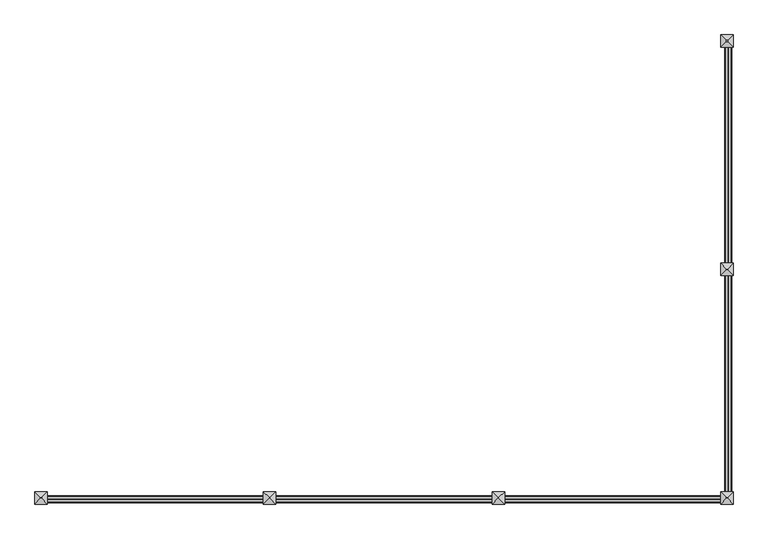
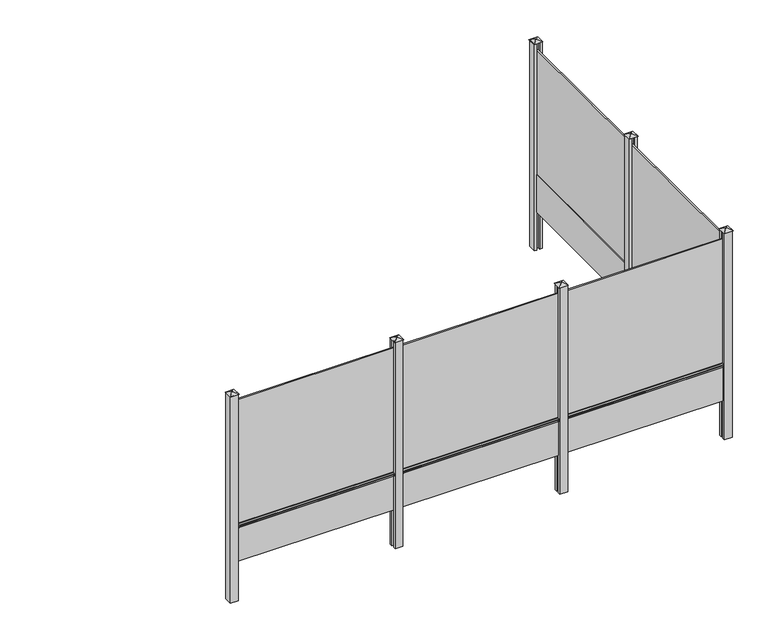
"""IFC4 building model written with IfcOpenShell, lengths in millimetres: railing geometry, Mehat - Railing - Plaque de Soubassement - Classique pour clôture rigide - 202.5x50x3.8 cm."""

import ifcopenshell
import ifcopenshell.guid

model = None  # the IFC model being written
_history = None  # IfcOwnerHistory: only IFC2X3 demands one
_inside = {}  # id of a spatial element -> (the spatial element, [elements in it])
_under = {}  # id of a project, library or spatial element -> (it, [spatial elements below it])
_declared = {}  # id of a project -> (the project, [libraries it declares])
_typed = {}  # id of a type object -> (the type object, [elements of that type])
_made_of = {}  # id of a material, layer set ... -> (it, [elements and type objects made of it])


def new_model(schema):
    """Start an empty IFC model of exactly this schema.

    Asked for "IFC4X3", IfcOpenShell would pick the latest addendum, in which some entities
    have other attributes; the version numbers below select the first issue.
    IFC2X3 requires an IfcOwnerHistory on every rooted entity: one is made here for all.
    """
    global model, _history
    if schema == "IFC4X3":
        model = ifcopenshell.file(schema_version=(4, 3, 0, 0))
    else:
        model = ifcopenshell.file(schema=schema)
    _inside.clear()
    _under.clear()
    _declared.clear()
    _typed.clear()
    _made_of.clear()
    _history = None
    if model.schema == "IFC2X3":
        org = make("IfcOrganization", Name="unknown")
        user = make(
            "IfcPersonAndOrganization",
            ThePerson=make("IfcPerson", FamilyName="unknown"),
            TheOrganization=org,
        )
        app = make(
            "IfcApplication",
            ApplicationDeveloper=org,
            Version="unknown",
            ApplicationFullName="unknown",
            ApplicationIdentifier="unknown",
        )
        _history = make(
            "IfcOwnerHistory",
            OwningUser=user,
            OwningApplication=app,
            ChangeAction="ADDED",
            CreationDate=0,
        )
    return model


def make(cls, **values):
    """One entity of the class cls with the attributes given. An attribute that is None is left unset."""
    return model.create_entity(
        cls, **{name: value for name, value in values.items() if value is not None}
    )


def rooted(cls, **values):
    """An entity with a GlobalId (a new one), such as an element, a storey or a relation."""
    return make(cls, GlobalId=ifcopenshell.guid.new(), OwnerHistory=_history, **values)


def si_unit(unit_type, name, prefix=None):
    """IfcSIUnit, for example si_unit("LENGTHUNIT", "METRE", prefix="MILLI")."""
    return make("IfcSIUnit", UnitType=unit_type, Prefix=prefix, Name=name)


def assignment(units):
    """IfcUnitAssignment: the units of a project."""
    return None if units is None else make("IfcUnitAssignment", Units=units)


def point(xyz):
    """IfcCartesianPoint."""
    return None if xyz is None else make("IfcCartesianPoint", Coordinates=xyz)


def direction(xyz):
    """IfcDirection."""
    return None if xyz is None else make("IfcDirection", DirectionRatios=xyz)


def frame(location, z_axis=None, x_axis=None):
    """IfcAxis2Placement3D, a coordinate frame: its origin and axes. An axis left out is left unset."""
    return make(
        "IfcAxis2Placement3D",
        Location=point(location),
        Axis=direction(z_axis),
        RefDirection=direction(x_axis),
    )


def frame_2d(location, x_axis=None):
    """IfcAxis2Placement2D, a coordinate frame in the plane: its origin and x axis."""
    return make(
        "IfcAxis2Placement2D", Location=point(location), RefDirection=direction(x_axis)
    )


def origin():
    """The frame at (0, 0, 0) with its axes left unset."""
    return frame((0.0, 0.0, 0.0))


def origin_with_axes():
    """The frame at (0, 0, 0) with the z axis (0, 0, 1) and the x axis (1, 0, 0) written out."""
    return frame((0.0, 0.0, 0.0), z_axis=(0.0, 0.0, 1.0), x_axis=(1.0, 0.0, 0.0))


def place(relative_to, where):
    """IfcLocalPlacement: puts the frame where relative to a parent placement (None: the world)."""
    return make(
        "IfcLocalPlacement", PlacementRelTo=relative_to, RelativePlacement=where
    )


def context(
    kind, dimensions, precision=None, world=None, true_north=None, identifier=None
):
    """IfcGeometricRepresentationContext, for example the 3D "Model" context."""
    return make(
        "IfcGeometricRepresentationContext",
        ContextIdentifier=identifier,
        ContextType=kind,
        CoordinateSpaceDimension=dimensions,
        Precision=precision,
        WorldCoordinateSystem=world,
        TrueNorth=true_north,
    )


def project(units=None, contexts=None):
    """IfcProject with its units and contexts."""
    return rooted(
        "IfcProject",
        Name="project",
        RepresentationContexts=contexts,
        UnitsInContext=assignment(units),
    )


def spatial(cls, under=None, at=None, **own):
    """A site, building, storey or space (cls), placed at a placement, below another one or the project."""
    s = rooted(cls, ObjectPlacement=at, **own)
    if under is not None:
        _under.setdefault(under.id(), (under, []))[1].append(s)
    return s


def polyline(points):
    """IfcPolyline through the points."""
    return make("IfcPolyline", Points=[point(p) for p in points])


def circle_curve(where, radius):
    """IfcCircle in the frame where."""
    return make("IfcCircle", Position=where, Radius=radius)


def trimmed(basis, trim1, trim2, sense, master):
    """IfcTrimmedCurve: the piece of a basis curve between two trims."""
    return make(
        "IfcTrimmedCurve",
        BasisCurve=basis,
        Trim1=trim1,
        Trim2=trim2,
        SenseAgreement=sense,
        MasterRepresentation=master,
    )


def segment(curve, same_sense, transition):
    """IfcCompositeCurveSegment."""
    return make(
        "IfcCompositeCurveSegment",
        Transition=transition,
        SameSense=same_sense,
        ParentCurve=curve,
    )


def composite_curve(segments, self_intersect=None):
    """IfcCompositeCurve: segments joined end to end."""
    return make("IfcCompositeCurve", Segments=segments, SelfIntersect=self_intersect)


def outline(outer, holes=None, kind="AREA"):
    """IfcArbitraryClosedProfileDef: a profile drawn as a closed curve; with holes, ...WithVoids."""
    if holes is None:
        return make("IfcArbitraryClosedProfileDef", ProfileType=kind, OuterCurve=outer)
    return make(
        "IfcArbitraryProfileDefWithVoids",
        ProfileType=kind,
        OuterCurve=outer,
        InnerCurves=holes,
    )


def extrude(swept, where, along, depth):
    """IfcExtrudedAreaSolid: the profile swept, set in the frame where, extruded along a direction by depth."""
    return make(
        "IfcExtrudedAreaSolid",
        SweptArea=swept,
        Position=where,
        ExtrudedDirection=direction(along),
        Depth=depth,
    )


def faces_of(points, faces, orient=None, outer=None):
    """IfcFace entities. A face is a list of loops; a loop is a list of indices into points, from 0.

    orient and outer hold one flag for each loop. By default every Orientation is true, the
    first loop of a face is its IfcFaceOuterBound and the others are IfcFaceBound.
    """
    made = []
    for i, loops in enumerate(faces):
        bounds = []
        for j, loop in enumerate(loops):
            is_outer = j == 0 if outer is None else outer[i][j]
            bounds.append(
                make(
                    "IfcFaceOuterBound" if is_outer else "IfcFaceBound",
                    Bound=make("IfcPolyLoop", Polygon=[points[k] for k in loop]),
                    Orientation=True if orient is None else orient[i][j],
                )
            )
        made.append(make("IfcFace", Bounds=bounds))
    return made


def faceted_brep(points, faces, orient=None, outer=None, voids=None):
    """IfcFacetedBrep: a solid bounded by flat faces; with voids (closed shells), ...WithVoids."""
    shared = [point(p) for p in points]
    hull = make("IfcClosedShell", CfsFaces=faces_of(shared, faces, orient, outer))
    if voids is None:
        return make("IfcFacetedBrep", Outer=hull)
    return make(
        "IfcFacetedBrepWithVoids",
        Outer=hull,
        Voids=[
            make(cls, CfsFaces=faces_of(shared, fs, o, b)) for cls, fs, o, b in voids
        ],
    )


def shape(context_of_items, identifier, shape_type, items):
    """IfcShapeRepresentation: the items that make up one representation, for example the "Body"."""
    return make(
        "IfcShapeRepresentation",
        ContextOfItems=context_of_items,
        RepresentationIdentifier=identifier,
        RepresentationType=shape_type,
        Items=items,
    )


def source(mapping_origin, context_of_items, identifier, shape_type, items):
    """IfcRepresentationMap: a shape defined once, which mapped items show again and again."""
    return make(
        "IfcRepresentationMap",
        MappingOrigin=mapping_origin,
        MappedRepresentation=shape(context_of_items, identifier, shape_type, items),
    )


def transform(
    local_origin,
    x_axis=None,
    y_axis=None,
    z_axis=None,
    scale=None,
    scale2=None,
    scale3=None,
    uniform=True,
):
    """IfcCartesianTransformationOperator3D, or its non-uniform kind. x_axis, y_axis, z_axis: its Axis1, 2, 3."""
    if uniform:
        return make(
            "IfcCartesianTransformationOperator3D",
            Axis1=direction(x_axis),
            Axis2=direction(y_axis),
            LocalOrigin=point(local_origin),
            Scale=scale,
            Axis3=direction(z_axis),
        )
    return make(
        "IfcCartesianTransformationOperator3DnonUniform",
        Axis1=direction(x_axis),
        Axis2=direction(y_axis),
        LocalOrigin=point(local_origin),
        Scale=scale,
        Axis3=direction(z_axis),
        Scale2=scale2,
        Scale3=scale3,
    )


def mapped(mapping_source, mapping_target):
    """IfcMappedItem: shows the shape of a source again, moved by a transform."""
    return make(
        "IfcMappedItem", MappingSource=mapping_source, MappingTarget=mapping_target
    )


def made_of(thing, what):
    """Note that an element or type object is made of a material, layer set ...; save() writes the relation."""
    if what is not None:
        _made_of.setdefault(what.id(), (what, []))[1].append(thing)
    return thing


def element(
    cls,
    number,
    at=None,
    inside=None,
    cuts=None,
    type_object=None,
    material=None,
    context=None,
    identifier="Body",
    shape_type=None,
    held_by="IfcProductDefinitionShape",
    body=None,
    shapes=None,
    **own,
):
    """One element of the class cls, such as IfcWall. Its Tag is "e" and its number.

    at: its placement. inside: the storey or other place that contains it. cuts: it is an
    opening in that element (IfcRelVoidsElement). A single representation is given by context,
    identifier, shape_type and body (its items); several are given by shapes. held_by: the class
    of the entity that holds the representations. save() writes the other relations.
    """
    e = rooted(cls, Tag="e%d" % number, ObjectPlacement=at, **own)
    if body is not None:
        shapes = [shape(context, identifier, shape_type, body)]
    if shapes is not None:
        e.Representation = make(held_by, Representations=shapes)
    if inside is not None:
        _inside.setdefault(inside.id(), (inside, []))[1].append(e)
    if cuts is not None:
        rooted(
            "IfcRelVoidsElement", RelatingBuildingElement=cuts, RelatedOpeningElement=e
        )
    if type_object is not None:
        _typed.setdefault(type_object.id(), (type_object, []))[1].append(e)
    return made_of(e, material)


def aggregate(whole, parts):
    """IfcRelAggregates: a whole, such as a stair, and the parts it consists of."""
    return rooted("IfcRelAggregates", RelatingObject=whole, RelatedObjects=parts)


def save(model, path):
    """Write the relations noted so far, then the file.

    IfcRelAggregates (storeys below a building ...), IfcRelContainedInSpatialStructure (elements
    in a storey), IfcRelDefinesByType, IfcRelAssociatesMaterial and IfcRelDeclares: one each for
    every whole, place, type object, material and project.
    """
    for whole, parts in _under.values():
        aggregate(whole, parts)
    for where, things in _inside.values():
        rooted(
            "IfcRelContainedInSpatialStructure",
            RelatedElements=things,
            RelatingStructure=where,
        )
    for kind, things in _typed.values():
        rooted("IfcRelDefinesByType", RelatedObjects=things, RelatingType=kind)
    for what, things in _made_of.values():
        rooted("IfcRelAssociatesMaterial", RelatedObjects=things, RelatingMaterial=what)
    for by, libraries in _declared.values():
        rooted("IfcRelDeclares", RelatingContext=by, RelatedDefinitions=libraries)
    model.write(path)


def railing_180d6d8c(model_context):
    return source(origin(), model_context, "Body", "SolidModel", [
        extrude(outline(polyline([(115060.7318173, -11484.1291402), (115043.7318173, -11484.1291402), (115043.7318173, -9459.1291402), (115060.7318173, -9459.1291402), (115060.7318173, -11484.1291402)])), frame((0.0, 0.0, 500.0), z_axis=(0.0, 0.0, 1.0), x_axis=(1.0, 0.0, 0.0)), (0.0, 0.0, 1.0), 1650.0),
        extrude(outline(polyline([(115071.2318173, -11484.1291402), (115033.2318173, -11484.1291402), (115033.2318173, -9459.1291402), (115071.2318173, -9459.1291402), (115071.2318173, -11484.1291402)])), origin_with_axes(), (0.0, 0.0, 1.0), 500.0),
        extrude(outline(composite_curve([segment(polyline([(460.0, 115071.2318173), (467.1937129, 115092.8129562)]), True, "CONTINUOUS"), segment(trimmed(circle_curve(frame_2d((471.9371294, 115091.2318173)), 5.0), [point((467.1937129, 115092.8129562))], [point((471.9371294, 115096.2318173))], False, "CARTESIAN"), True, "CONTINUOUS"), segment(polyline([(471.9371294, 115096.2318173), (488.0628706, 115096.2318173)]), True, "CONTINUOUS"), segment(trimmed(circle_curve(frame_2d((488.0628706, 115091.2318173)), 5.0), [point((488.0628706, 115096.2318173))], [point((492.8062871, 115092.8129562))], False, "CARTESIAN"), True, "CONTINUOUS"), segment(polyline([(492.8062871, 115092.8129562), (500.0, 115071.2318173), (460.0, 115071.2318173)]), True, "CONTINUOUS")], self_intersect=False)), frame((0.0, -11459.1291402, 0.0), z_axis=(0.0, 1.0, 0.0), x_axis=(0.0, 0.0, 1.0)), (0.0, 0.0, 1.0), 1975.0),
        extrude(outline(polyline([(115102.2318173, -11559.1291402), (115071.2318173, -11559.1291402), (115071.2318173, -11534.1291402), (115033.2318173, -11534.1291402), (115033.2318173, -11559.1291402), (115002.2318173, -11559.1291402), (115002.2318173, -11459.1291402), (115033.2318173, -11459.1291402), (115033.2318173, -11484.1291402), (115071.2318173, -11484.1291402), (115071.2318173, -11459.1291402), (115102.2318173, -11459.1291402), (115102.2318173, -11559.1291402)])), frame((0.0, 0.0, -500.0), z_axis=(0.0, 0.0, 1.0), x_axis=(1.0, 0.0, 0.0)), (0.0, 0.0, 1.0), 2750.0),
        faceted_brep([(115045.8272712, -11502.7791402, 2275.4), (115045.8272712, -11515.4791402, 2275.4), (115058.5272712, -11515.4791402, 2275.4), (115058.5272712, -11502.7791402, 2275.4), (114995.8818173, -11452.7791402, 2250.0), (115108.5818173, -11452.7791402, 2250.0), (115108.5818173, -11565.4791402, 2250.0), (114995.8818173, -11565.4791402, 2250.0)], [[[0, 1, 2, 3]], [[4, 5, 6, 7]], [[4, 0, 3, 5]], [[5, 3, 2, 6]], [[6, 2, 1, 7]], [[7, 1, 0, 4]]]),
        extrude(outline(polyline([(115060.7318173, -13559.1291402), (115043.7318173, -13559.1291402), (115043.7318173, -11534.1291402), (115060.7318173, -11534.1291402), (115060.7318173, -13559.1291402)])), frame((0.0, 0.0, 500.0), z_axis=(0.0, 0.0, 1.0), x_axis=(1.0, 0.0, 0.0)), (0.0, 0.0, 1.0), 1650.0),
        extrude(outline(polyline([(115071.2318173, -13559.1291402), (115033.2318173, -13559.1291402), (115033.2318173, -11534.1291402), (115071.2318173, -11534.1291402), (115071.2318173, -13559.1291402)])), origin_with_axes(), (0.0, 0.0, 1.0), 500.0),
        extrude(outline(composite_curve([segment(polyline([(460.0, 115071.2318173), (467.1937129, 115092.8129562)]), True, "CONTINUOUS"), segment(trimmed(circle_curve(frame_2d((471.9371294, 115091.2318173)), 5.0), [point((467.1937129, 115092.8129562))], [point((471.9371294, 115096.2318173))], False, "CARTESIAN"), True, "CONTINUOUS"), segment(polyline([(471.9371294, 115096.2318173), (488.0628706, 115096.2318173)]), True, "CONTINUOUS"), segment(trimmed(circle_curve(frame_2d((488.0628706, 115091.2318173)), 5.0), [point((488.0628706, 115096.2318173))], [point((492.8062871, 115092.8129562))], False, "CARTESIAN"), True, "CONTINUOUS"), segment(polyline([(492.8062871, 115092.8129562), (500.0, 115071.2318173), (460.0, 115071.2318173)]), True, "CONTINUOUS")], self_intersect=False)), frame((0.0, -13534.1291402, 0.0), z_axis=(0.0, 1.0, 0.0), x_axis=(0.0, 0.0, 1.0)), (0.0, 0.0, 1.0), 1975.0),
        extrude(outline(polyline([(113002.2318173, -13592.6291402), (113002.2318173, -13575.6291402), (115027.2318173, -13575.6291402), (115027.2318173, -13592.6291402), (113002.2318173, -13592.6291402)])), frame((0.0, 0.0, 500.0), z_axis=(0.0, 0.0, 1.0), x_axis=(1.0, 0.0, 0.0)), (0.0, 0.0, 1.0), 1650.0),
        extrude(outline(polyline([(113002.2318173, -13603.1291402), (113002.2318173, -13565.1291402), (115027.2318173, -13565.1291402), (115027.2318173, -13603.1291402), (113002.2318173, -13603.1291402)])), origin_with_axes(), (0.0, 0.0, 1.0), 500.0),
        extrude(outline(composite_curve([segment(polyline([(-13603.1291402, 460.0), (-13624.7102791, 467.1937129)]), True, "CONTINUOUS"), segment(trimmed(circle_curve(frame_2d((-13623.1291402, 471.9371294)), 5.0), [point((-13624.7102791, 467.1937129))], [point((-13628.1291402, 471.9371294))], False, "CARTESIAN"), True, "CONTINUOUS"), segment(polyline([(-13628.1291402, 471.9371294), (-13628.1291402, 488.0628706)]), True, "CONTINUOUS"), segment(trimmed(circle_curve(frame_2d((-13623.1291402, 488.0628706)), 5.0), [point((-13628.1291402, 488.0628706))], [point((-13624.7102791, 492.8062871))], False, "CARTESIAN"), True, "CONTINUOUS"), segment(polyline([(-13624.7102791, 492.8062871), (-13603.1291402, 500.0), (-13603.1291402, 460.0)]), True, "CONTINUOUS")], self_intersect=False)), frame((113027.2318173, 0.0, 0.0), z_axis=(1.0, 0.0, 0.0), x_axis=(0.0, 1.0, 0.0)), (0.0, 0.0, 1.0), 1975.0),
        extrude(outline(polyline([(112927.2318173, -13634.1291402), (112927.2318173, -13603.1291402), (112952.2318173, -13603.1291402), (112952.2318173, -13565.1291402), (112927.2318173, -13565.1291402), (112927.2318173, -13534.1291402), (113027.2318173, -13534.1291402), (113027.2318173, -13565.1291402), (113002.2318173, -13565.1291402), (113002.2318173, -13603.1291402), (113027.2318173, -13603.1291402), (113027.2318173, -13634.1291402), (112927.2318173, -13634.1291402)])), frame((0.0, 0.0, -500.0), z_axis=(0.0, 0.0, 1.0), x_axis=(1.0, 0.0, 0.0)), (0.0, 0.0, 1.0), 2750.0),
        faceted_brep([(112983.5818173, -13577.7245941, 2275.4), (112970.8818173, -13577.7245941, 2275.4), (112970.8818173, -13590.4245941, 2275.4), (112983.5818173, -13590.4245941, 2275.4), (113033.5818173, -13527.7791402, 2250.0), (113033.5818173, -13640.4791402, 2250.0), (112920.8818173, -13640.4791402, 2250.0), (112920.8818173, -13527.7791402, 2250.0)], [[[0, 1, 2, 3]], [[4, 5, 6, 7]], [[4, 0, 3, 5]], [[5, 3, 2, 6]], [[6, 2, 1, 7]], [[7, 1, 0, 4]]]),
        extrude(outline(polyline([(110927.2318173, -13592.6291402), (110927.2318173, -13575.6291402), (112952.2318173, -13575.6291402), (112952.2318173, -13592.6291402), (110927.2318173, -13592.6291402)])), frame((0.0, 0.0, 500.0), z_axis=(0.0, 0.0, 1.0), x_axis=(1.0, 0.0, 0.0)), (0.0, 0.0, 1.0), 1650.0),
        extrude(outline(polyline([(110927.2318173, -13603.1291402), (110927.2318173, -13565.1291402), (112952.2318173, -13565.1291402), (112952.2318173, -13603.1291402), (110927.2318173, -13603.1291402)])), origin_with_axes(), (0.0, 0.0, 1.0), 500.0),
        extrude(outline(composite_curve([segment(polyline([(-13603.1291402, 460.0), (-13624.7102791, 467.1937129)]), True, "CONTINUOUS"), segment(trimmed(circle_curve(frame_2d((-13623.1291402, 471.9371294)), 5.0), [point((-13624.7102791, 467.1937129))], [point((-13628.1291402, 471.9371294))], False, "CARTESIAN"), True, "CONTINUOUS"), segment(polyline([(-13628.1291402, 471.9371294), (-13628.1291402, 488.0628706)]), True, "CONTINUOUS"), segment(trimmed(circle_curve(frame_2d((-13623.1291402, 488.0628706)), 5.0), [point((-13628.1291402, 488.0628706))], [point((-13624.7102791, 492.8062871))], False, "CARTESIAN"), True, "CONTINUOUS"), segment(polyline([(-13624.7102791, 492.8062871), (-13603.1291402, 500.0), (-13603.1291402, 460.0)]), True, "CONTINUOUS")], self_intersect=False)), frame((110952.2318173, 0.0, 0.0), z_axis=(1.0, 0.0, 0.0), x_axis=(0.0, 1.0, 0.0)), (0.0, 0.0, 1.0), 1975.0),
        extrude(outline(polyline([(110852.2318173, -13634.1291402), (110852.2318173, -13603.1291402), (110877.2318173, -13603.1291402), (110877.2318173, -13565.1291402), (110852.2318173, -13565.1291402), (110852.2318173, -13534.1291402), (110952.2318173, -13534.1291402), (110952.2318173, -13565.1291402), (110927.2318173, -13565.1291402), (110927.2318173, -13603.1291402), (110952.2318173, -13603.1291402), (110952.2318173, -13634.1291402), (110852.2318173, -13634.1291402)])), frame((0.0, 0.0, -500.0), z_axis=(0.0, 0.0, 1.0), x_axis=(1.0, 0.0, 0.0)), (0.0, 0.0, 1.0), 2750.0),
        faceted_brep([(110908.5818173, -13577.7245941, 2275.4), (110895.8818173, -13577.7245941, 2275.4), (110895.8818173, -13590.4245941, 2275.4), (110908.5818173, -13590.4245941, 2275.4), (110958.5818173, -13527.7791402, 2250.0), (110958.5818173, -13640.4791402, 2250.0), (110845.8818173, -13640.4791402, 2250.0), (110845.8818173, -13527.7791402, 2250.0)], [[[0, 1, 2, 3]], [[4, 5, 6, 7]], [[4, 0, 3, 5]], [[5, 3, 2, 6]], [[6, 2, 1, 7]], [[7, 1, 0, 4]]]),
        extrude(outline(polyline([(108852.2318173, -13592.6291402), (108852.2318173, -13575.6291402), (110877.2318173, -13575.6291402), (110877.2318173, -13592.6291402), (108852.2318173, -13592.6291402)])), frame((0.0, 0.0, 500.0), z_axis=(0.0, 0.0, 1.0), x_axis=(1.0, 0.0, 0.0)), (0.0, 0.0, 1.0), 1650.0),
        extrude(outline(polyline([(108852.2318173, -13603.1291402), (108852.2318173, -13565.1291402), (110877.2318173, -13565.1291402), (110877.2318173, -13603.1291402), (108852.2318173, -13603.1291402)])), origin_with_axes(), (0.0, 0.0, 1.0), 500.0),
        extrude(outline(composite_curve([segment(polyline([(-13603.1291402, 460.0), (-13624.7102791, 467.1937129)]), True, "CONTINUOUS"), segment(trimmed(circle_curve(frame_2d((-13623.1291402, 471.9371294)), 5.0), [point((-13624.7102791, 467.1937129))], [point((-13628.1291402, 471.9371294))], False, "CARTESIAN"), True, "CONTINUOUS"), segment(polyline([(-13628.1291402, 471.9371294), (-13628.1291402, 488.0628706)]), True, "CONTINUOUS"), segment(trimmed(circle_curve(frame_2d((-13623.1291402, 488.0628706)), 5.0), [point((-13628.1291402, 488.0628706))], [point((-13624.7102791, 492.8062871))], False, "CARTESIAN"), True, "CONTINUOUS"), segment(polyline([(-13624.7102791, 492.8062871), (-13603.1291402, 500.0), (-13603.1291402, 460.0)]), True, "CONTINUOUS")], self_intersect=False)), frame((108877.2318173, 0.0, 0.0), z_axis=(1.0, 0.0, 0.0), x_axis=(0.0, 1.0, 0.0)), (0.0, 0.0, 1.0), 1975.0),
        extrude(outline(polyline([(115002.2318173, -13634.1291402), (115002.2318173, -13603.1291402), (115027.2318173, -13603.1291402), (115027.2318173, -13565.1291402), (115002.2318173, -13565.1291402), (115002.2318173, -13534.1291402), (115033.2318173, -13534.1291402), (115033.2318173, -13559.1291402), (115071.2318173, -13559.1291402), (115071.2318173, -13534.1291402), (115102.2318173, -13534.1291402), (115102.2318173, -13634.1291402), (115002.2318173, -13634.1291402)])), frame((0.0, 0.0, -500.0), z_axis=(0.0, 0.0, 1.0), x_axis=(1.0, 0.0, 0.0)), (0.0, 0.0, 1.0), 2750.0),
        faceted_brep([(115058.5818173, -13577.7245941, 2275.4), (115045.8818173, -13577.7245941, 2275.4), (115045.8818173, -13590.4245941, 2275.4), (115058.5818173, -13590.4245941, 2275.4), (115108.5818173, -13527.7791402, 2250.0), (115108.5818173, -13640.4791402, 2250.0), (114995.8818173, -13640.4791402, 2250.0), (114995.8818173, -13527.7791402, 2250.0)], [[[0, 1, 2, 3]], [[4, 5, 6, 7]], [[4, 0, 3, 5]], [[5, 3, 2, 6]], [[6, 2, 1, 7]], [[7, 1, 0, 4]]]),
        extrude(outline(polyline([(115102.2318173, -9484.1291402), (115071.2318173, -9484.1291402), (115071.2318173, -9459.1291402), (115033.2318173, -9459.1291402), (115033.2318173, -9484.1291402), (115002.2318173, -9484.1291402), (115002.2318173, -9384.1291402), (115102.2318173, -9384.1291402), (115102.2318173, -9484.1291402)])), frame((0.0, 0.0, -500.0), z_axis=(0.0, 0.0, 1.0), x_axis=(1.0, 0.0, 0.0)), (0.0, 0.0, 1.0), 2750.0),
        faceted_brep([(115045.8272712, -9427.7791402, 2275.4), (115045.8272712, -9440.4791402, 2275.4), (115058.5272712, -9440.4791402, 2275.4), (115058.5272712, -9427.7791402, 2275.4), (114995.8818173, -9377.7791402, 2250.0), (115108.5818173, -9377.7791402, 2250.0), (115108.5818173, -9490.4791402, 2250.0), (114995.8818173, -9490.4791402, 2250.0)], [[[0, 1, 2, 3]], [[4, 5, 6, 7]], [[4, 0, 3, 5]], [[5, 3, 2, 6]], [[6, 2, 1, 7]], [[7, 1, 0, 4]]]),
        extrude(outline(polyline([(108777.2318173, -13634.1291402), (108777.2318173, -13534.1291402), (108877.2318173, -13534.1291402), (108877.2318173, -13565.1291402), (108852.2318173, -13565.1291402), (108852.2318173, -13603.1291402), (108877.2318173, -13603.1291402), (108877.2318173, -13634.1291402), (108777.2318173, -13634.1291402)])), frame((0.0, 0.0, -500.0), z_axis=(0.0, 0.0, 1.0), x_axis=(1.0, 0.0, 0.0)), (0.0, 0.0, 1.0), 2750.0),
        faceted_brep([(108833.5818173, -13577.7245941, 2275.4), (108820.8818173, -13577.7245941, 2275.4), (108820.8818173, -13590.4245941, 2275.4), (108833.5818173, -13590.4245941, 2275.4), (108883.5818173, -13527.7791402, 2250.0), (108883.5818173, -13640.4791402, 2250.0), (108770.8818173, -13640.4791402, 2250.0), (108770.8818173, -13527.7791402, 2250.0)], [[[0, 1, 2, 3]], [[4, 5, 6, 7]], [[4, 0, 3, 5]], [[5, 3, 2, 6]], [[6, 2, 1, 7]], [[7, 1, 0, 4]]]),
    ])


if __name__ == "__main__":
    model = new_model("IFC4")
    model_context = context("Model", 3, world=origin())
    ifc_project = project(units=[si_unit("LENGTHUNIT", "METRE", prefix="MILLI")], contexts=[model_context])
    site = spatial("IfcSite", under=ifc_project)
    building = spatial("IfcBuilding", under=site)
    placement = place(None, origin())
    railing_shape = railing_180d6d8c(model_context)
    element("IfcRailing", 1, ObjectType="Mehat - Railing - Plaque de Soubassement - Classique pour clôture rigide - 202.5x50x3.8 cm", at=placement, inside=building, context=model_context, shape_type="MappedRepresentation", body=[
        mapped(railing_shape, transform((0.0, 0.0, 0.0), x_axis=(1.0, 0.0, 0.0), y_axis=(0.0, 1.0, 0.0), z_axis=(0.0, 0.0, 1.0))),
    ])
    save(model, "model.ifc")
